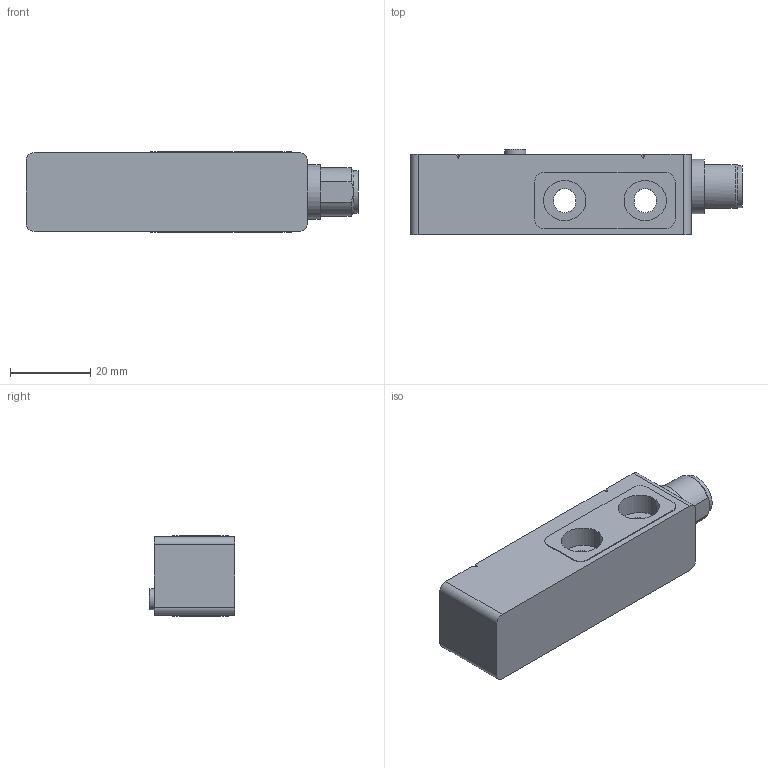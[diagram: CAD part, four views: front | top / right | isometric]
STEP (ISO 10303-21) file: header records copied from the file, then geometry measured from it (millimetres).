
FILE_DESCRIPTION(/* description */ ('Unknown'),/* implementation_level */ '2;1');
FILE_NAME(/* name */ 'TMAA',/* time_stamp */ '2019-08-28T15:45:05+02:00',/* author */ ('Unknown'),/* organization */ ('Unknown'),/* preprocessor_version */ 'ST-DEVELOPER v16.7',/* originating_system */ 'DEX',/* authorisation */ $);
FILE_SCHEMA (('AUTOMOTIVE_DESIGN {1 0 10303 214 3 1 1}'));
Length unit declared in the file: millimetre
Products named in the file (1): TMAA
Bounding box: 82.6 x 21.3 x 20 mm (x, y, z)
Volume: 26262.8 mm3; surface area: 8512 mm2
Topology: 1 solids, 1 shells, 164 faces, 400 edges, 262 vertices
Faces by surface type: plane 84, cylinder 52, torus 14, cone 14
Full cylindrical faces by diameter (mm): 0.6 x12, 5.3 x1, 8.38 x1, 10.45 x1, 13.5 x1
Entity records: 4523 total; most frequent: DIRECTION 802, CARTESIAN_POINT 773, ORIENTED_EDGE 682, EDGE_CURVE 341, AXIS2_PLACEMENT_3D 299, VERTEX_POINT 247, EDGE_LOOP 236, FACE_BOUND 236
